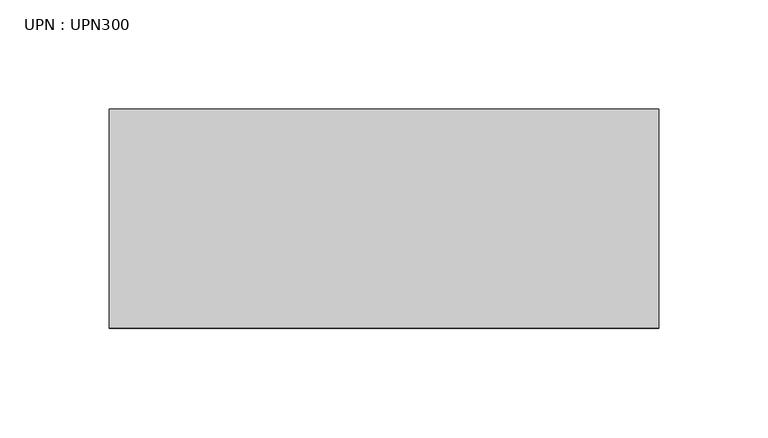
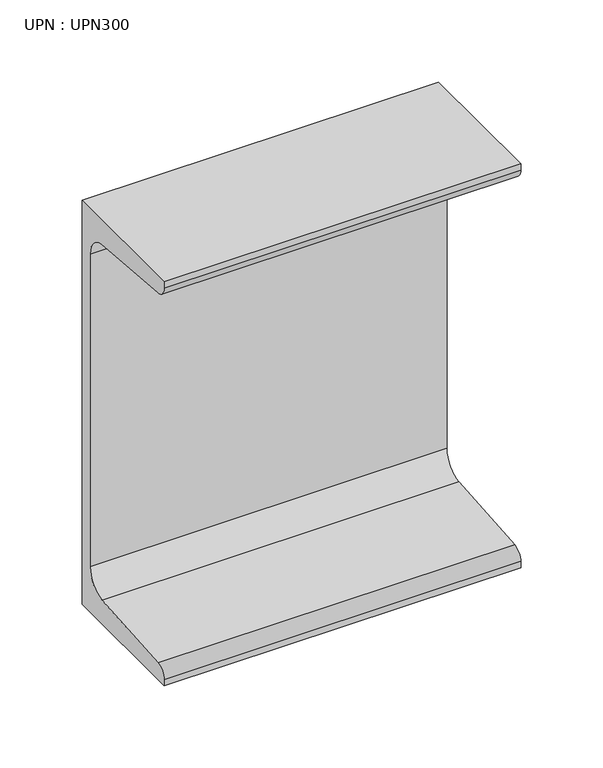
"""IFC4 building model written with IfcOpenShell, lengths in millimetres: beam geometry, UPN : UPN300."""

from ifc_helpers import new_model, si_unit, point, frame, frame_2d, origin, place, context, project, spatial, polyline, circle_curve, trimmed, segment, composite_curve, outline, extrude, source, transform, mapped, element, save


def upn_upn300_8c717aac(model_context):
    return source(origin(), model_context, "Body", "SweptSolid", [
        extrude(outline(composite_curve([segment(polyline([(27.0, 150.0), (27.0, -150.0), (-73.0, -150.0), (-73.0, -145.3826224)]), True, "CONTINUOUS"), segment(trimmed(circle_curve(frame_2d((-65.0, -145.3826224)), 8.0), [point((-73.0, -145.3826224))], [point((-65.637416, -137.4080566))], False, "CARTESIAN"), True, "CONTINUOUS"), segment(polyline([(-65.637416, -137.4080566), (2.274832, -131.9797543)]), True, "CONTINUOUS"), segment(trimmed(circle_curve(frame_2d((1.0, -116.0306225)), 16.0), [point((2.274832, -131.9797543))], [point((17.0, -116.0306225))], True, "CARTESIAN"), True, "CONTINUOUS"), segment(polyline([(17.0, -116.0306225), (17.0, 116.0306225)]), True, "CONTINUOUS"), segment(trimmed(circle_curve(frame_2d((1.0, 116.0306225)), 16.0), [point((17.0, 116.0306225))], [point((2.274832, 131.9797543))], True, "CARTESIAN"), True, "CONTINUOUS"), segment(polyline([(2.274832, 131.9797543), (-65.637416, 137.4080566)]), True, "CONTINUOUS"), segment(trimmed(circle_curve(frame_2d((-65.0, 145.3826224)), 8.0), [point((-65.637416, 137.4080566))], [point((-73.0, 145.3826224))], False, "CARTESIAN"), True, "CONTINUOUS"), segment(polyline([(-73.0, 145.3826224), (-73.0, 150.0), (27.0, 150.0)]), True, "CONTINUOUS")], self_intersect=False)), frame((-183.0, 0.0, 0.0), z_axis=(1.0, 0.0, 0.0), x_axis=(0.0, 1.0, 0.0)), (0.0, 0.0, 1.0), 250.7),
    ])


if __name__ == "__main__":
    model = new_model("IFC4")
    model_context = context("Model", 3, world=origin())
    ifc_project = project(units=[si_unit("LENGTHUNIT", "METRE", prefix="MILLI")], contexts=[model_context])
    site = spatial("IfcSite", under=ifc_project)
    building = spatial("IfcBuilding", under=site)
    placement = place(None, origin())
    upn_upn300_shape = upn_upn300_8c717aac(model_context)
    element("IfcBeam", 1, ObjectType="UPN : UPN300", at=placement, inside=building, context=model_context, shape_type="MappedRepresentation", body=[
        mapped(upn_upn300_shape, transform((0.0, 0.0, 0.0), x_axis=(1.0, 0.0, 0.0), y_axis=(0.0, 1.0, 0.0), z_axis=(0.0, 0.0, 1.0))),
    ])
    save(model, "model.ifc")
